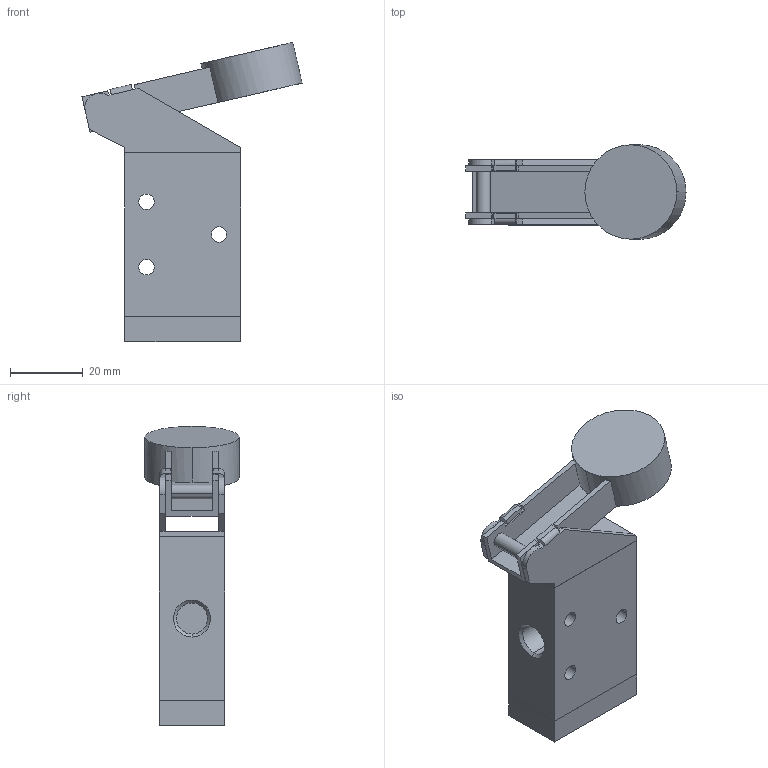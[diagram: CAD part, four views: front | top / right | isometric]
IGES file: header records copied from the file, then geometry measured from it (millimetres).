
Global section: file name: No Iges File Name specified; native system: AutoDesk Inventor R11.0; preprocessor: AutoDesk Inventor Iges Exporter R11.0; author: No Author specified; organization: No Organization specified; date: 20061219.113756; units: millimetre
Bounding box: 60.71 x 26 x 82.46 mm (x, y, z)
Volume: 37599.5 mm3; surface area: 15339.8 mm2
Topology: 3 solids, 3 shells, 100 faces, 238 edges, 152 vertices
Faces by surface type: plane 58, bspline 27, cylinder 8, revolution 7
